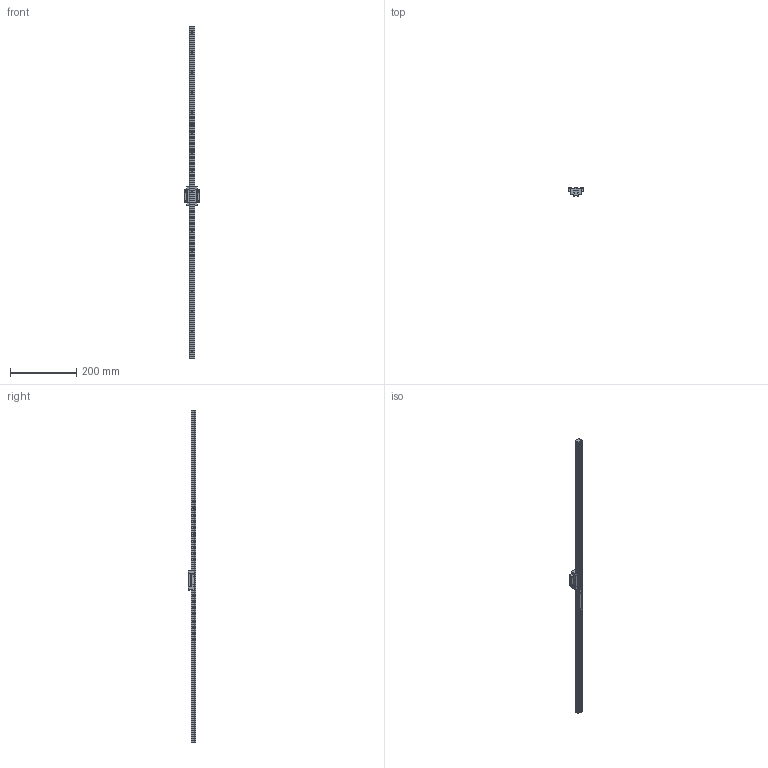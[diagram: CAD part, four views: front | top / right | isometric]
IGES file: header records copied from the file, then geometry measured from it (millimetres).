
Start section: SolidWorks IGES file using analytic representation for surfaces
Global section: file name: E:\3D\c\GGB\GGB16\GGB16AA.IGS; native system: SolidWorks 2010; preprocessor: SolidWorks 2010; author: wangsj; date: 110730.085255; units: millimetre
Bounding box: 47 x 24 x 1000 mm (x, y, z)
Surface area: 78636.2 mm2 (no closed solid volume)
Topology: 0 solids, 0 shells, 247 faces, 3716 edges, 3714 vertices
Faces by surface type: revolution 149, bspline 98
